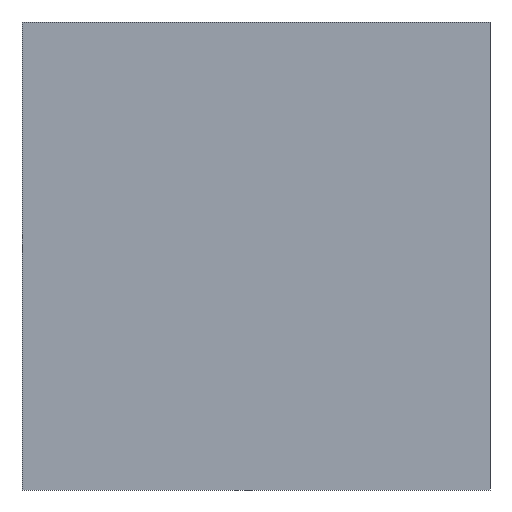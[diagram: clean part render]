
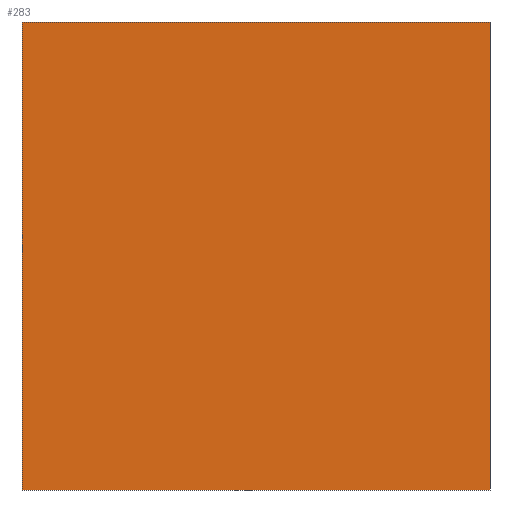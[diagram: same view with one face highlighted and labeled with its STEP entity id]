
A CAD part, front view. The second image highlights one B-rep face of the part: STEP entity #283.
In plain terms, the highlighted planar face has unit normal (0, -1, 0).
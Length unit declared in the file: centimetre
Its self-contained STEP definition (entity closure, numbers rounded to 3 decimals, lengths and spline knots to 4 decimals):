
#4 = ORIENTED_EDGE ( 'NONE', *, *, #36, .F. ) ;
#15 = VECTOR ( 'NONE', #309, 100. ) ;
#21 = FACE_OUTER_BOUND ( 'NONE', #475, .T. ) ;
#22 = DIRECTION ( 'NONE',  ( 0., 0., -1. ) ) ;
#36 = EDGE_CURVE ( 'NONE', #286, #320, #37, .T. ) ;
#37 = LINE ( 'NONE', #223, #41 ) ;
#41 = VECTOR ( 'NONE', #295, 100. ) ;
#64 = CARTESIAN_POINT ( 'NONE',  ( 0., 0., 1000. ) ) ;
#85 = CARTESIAN_POINT ( 'NONE',  ( 0., 0., 0. ) ) ;
#98 = EDGE_CURVE ( 'NONE', #376, #286, #369, .T. ) ;
#100 = ORIENTED_EDGE ( 'NONE', *, *, #98, .F. ) ;
#156 = EDGE_CURVE ( 'NONE', #376, #412, #292, .T. ) ;
#163 = AXIS2_PLACEMENT_3D ( 'NONE', #353, #250, #435 ) ;
#179 = ORIENTED_EDGE ( 'NONE', *, *, #401, .T. ) ;
#200 = VECTOR ( 'NONE', #367, 100. ) ;
#204 = PLANE ( 'NONE',  #163 ) ;
#208 = CARTESIAN_POINT ( 'NONE',  ( 1000., 0., 1000. ) ) ;
#223 = CARTESIAN_POINT ( 'NONE',  ( 1000., 0., 1000. ) ) ;
#250 = DIRECTION ( 'NONE',  ( 0., 1., 0. ) ) ;
#279 = CARTESIAN_POINT ( 'NONE',  ( 0., 0., 1000. ) ) ;
#283 = ADVANCED_FACE ( 'NONE', ( #21 ), #204, .F. ) ;
#286 = VERTEX_POINT ( 'NONE', #208 ) ;
#292 = LINE ( 'NONE', #444, #383 ) ;
#295 = DIRECTION ( 'NONE',  ( 0., 0., -1. ) ) ;
#299 = ORIENTED_EDGE ( 'NONE', *, *, #156, .T. ) ;
#309 = DIRECTION ( 'NONE',  ( 1., 0., 0. ) ) ;
#320 = VERTEX_POINT ( 'NONE', #326 ) ;
#326 = CARTESIAN_POINT ( 'NONE',  ( 1000., 0., 0. ) ) ;
#349 = LINE ( 'NONE', #85, #15 ) ;
#353 = CARTESIAN_POINT ( 'NONE',  ( 0., 0., 1000. ) ) ;
#367 = DIRECTION ( 'NONE',  ( 1., 0., 0. ) ) ;
#369 = LINE ( 'NONE', #64, #200 ) ;
#376 = VERTEX_POINT ( 'NONE', #279 ) ;
#383 = VECTOR ( 'NONE', #22, 100. ) ;
#401 = EDGE_CURVE ( 'NONE', #412, #320, #349, .T. ) ;
#412 = VERTEX_POINT ( 'NONE', #420 ) ;
#420 = CARTESIAN_POINT ( 'NONE',  ( 0., 0., 0. ) ) ;
#435 = DIRECTION ( 'NONE',  ( 0., 0., 1. ) ) ;
#444 = CARTESIAN_POINT ( 'NONE',  ( 0., 0., 1000. ) ) ;
#475 = EDGE_LOOP ( 'NONE', ( #179, #4, #100, #299 ) ) ;
